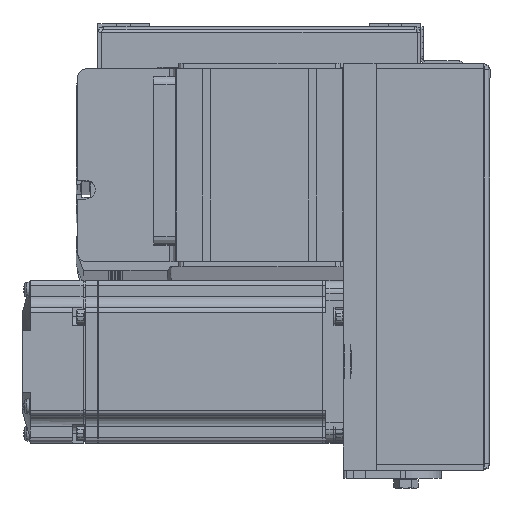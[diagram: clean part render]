
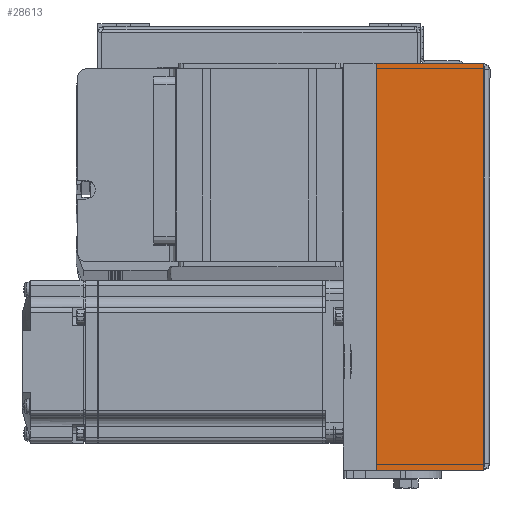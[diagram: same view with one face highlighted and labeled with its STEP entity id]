
A CAD part, top view. The second image highlights one B-rep face of the part: STEP entity #28613.
In plain terms, the highlighted planar face has unit normal (0, 0, 1) as drawn and (0, 1, 0) by its records, which use the part's own axes.
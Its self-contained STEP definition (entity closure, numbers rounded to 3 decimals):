
#3342 = DIRECTION ( 'NONE',  ( -1., 0., 0. ) ) ;
#4934 = DIRECTION ( 'NONE',  ( -1., 0., 0. ) ) ;
#4974 = EDGE_CURVE ( 'NONE', #28822, #15898, #22453, .T. ) ;
#6768 = VECTOR ( 'NONE', #3342, 1000. ) ;
#7181 = CARTESIAN_POINT ( 'NONE',  ( -75., 36., 51.5 ) ) ;
#10984 = CARTESIAN_POINT ( 'NONE',  ( 75., 36., 51.5 ) ) ;
#11919 = DIRECTION ( 'NONE',  ( 0., 0., -1. ) ) ;
#12196 = LINE ( 'NONE', #32424, #36429 ) ;
#12729 = DIRECTION ( 'NONE',  ( 0., 0., 1. ) ) ;
#12944 = CARTESIAN_POINT ( 'NONE',  ( 0., 36., 52. ) ) ;
#13841 = DIRECTION ( 'NONE',  ( 0., 0., -1. ) ) ;
#14967 = CARTESIAN_POINT ( 'NONE',  ( -75., 36., 51.5 ) ) ;
#15898 = VERTEX_POINT ( 'NONE', #7181 ) ;
#16153 = CARTESIAN_POINT ( 'NONE',  ( -75., 36., 51.5 ) ) ;
#18851 = DIRECTION ( 'NONE',  ( 0., -1., 0. ) ) ;
#20243 = VECTOR ( 'NONE', #13841, 1000. ) ;
#21377 = EDGE_CURVE ( 'NONE', #15898, #34659, #33489, .T. ) ;
#22453 = LINE ( 'NONE', #16153, #6768 ) ;
#22592 = ORIENTED_EDGE ( 'NONE', *, *, #4974, .F. ) ;
#23036 = ORIENTED_EDGE ( 'NONE', *, *, #31537, .T. ) ;
#23220 = AXIS2_PLACEMENT_3D ( 'NONE', #12944, #18851, #12729 ) ;
#24239 = ORIENTED_EDGE ( 'NONE', *, *, #32781, .T. ) ;
#24884 = VERTEX_POINT ( 'NONE', #36612 ) ;
#24934 = FACE_OUTER_BOUND ( 'NONE', #36969, .T. ) ;
#27032 = LINE ( 'NONE', #10984, #20243 ) ;
#28367 = VECTOR ( 'NONE', #11919, 1000. ) ;
#28613 = ADVANCED_FACE ( 'NONE', ( #24934 ), #37378, .F. ) ;
#28822 = VERTEX_POINT ( 'NONE', #36945 ) ;
#29935 = ORIENTED_EDGE ( 'NONE', *, *, #21377, .F. ) ;
#31537 = EDGE_CURVE ( 'NONE', #24884, #34659, #12196, .T. ) ;
#32424 = CARTESIAN_POINT ( 'NONE',  ( 0., 36., 12. ) ) ;
#32781 = EDGE_CURVE ( 'NONE', #28822, #24884, #27032, .T. ) ;
#33489 = LINE ( 'NONE', #14967, #28367 ) ;
#34659 = VERTEX_POINT ( 'NONE', #39029 ) ;
#36429 = VECTOR ( 'NONE', #4934, 1000. ) ;
#36612 = CARTESIAN_POINT ( 'NONE',  ( 75., 36., 12. ) ) ;
#36945 = CARTESIAN_POINT ( 'NONE',  ( 75., 36., 51.5 ) ) ;
#36969 = EDGE_LOOP ( 'NONE', ( #22592, #24239, #23036, #29935 ) ) ;
#37378 = PLANE ( 'NONE',  #23220 ) ;
#39029 = CARTESIAN_POINT ( 'NONE',  ( -75., 36., 12. ) ) ;
